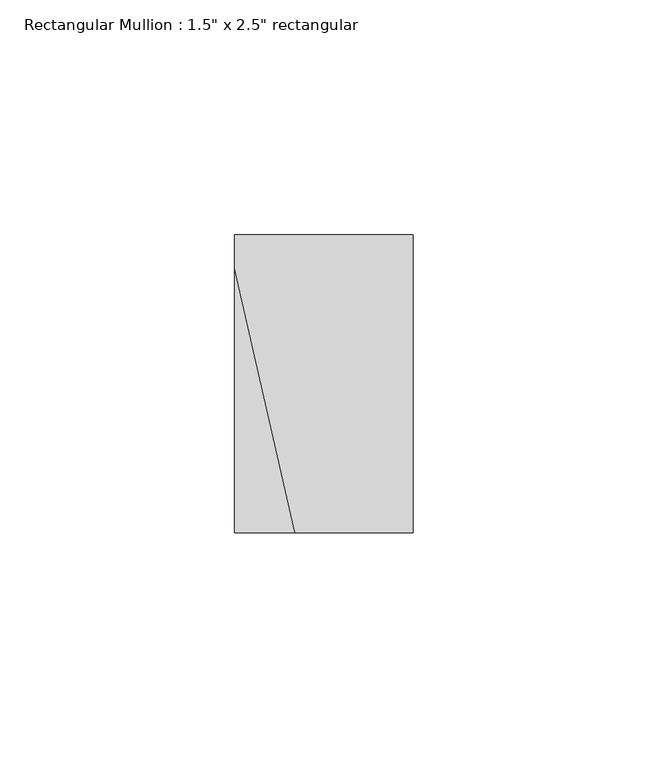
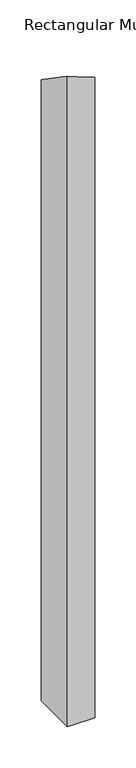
"""IFC4 building model written with IfcOpenShell, lengths in millimetres: member geometry."""

from ifc_helpers import new_model, si_unit, origin, place, context, project, spatial, faceted_brep, source, transform, mapped, element, save


def member_5a82a5ce(model_context):
    return source(origin(), model_context, "Body", "Brep", [
        faceted_brep([(19.05, 31.75, -973.5508819), (19.05, -31.75, -973.5508819), (-19.05, -31.75, -973.5508819), (-19.05, 31.75, -973.5508819), (-19.05, 31.75, -54.949885), (19.05, 31.75, -69.7699096), (-19.05, -31.75, -11.4120473), (-19.05, 24.6105029, -50.031074), (19.05, -31.75, -26.0210998), (-6.1722582, -31.75, -16.2102209)], [[[0, 1, 2, 3]], [[4, 5, 0, 3]], [[6, 7, 4, 3, 2]], [[8, 9, 6, 2, 1]], [[5, 8, 1, 0]], [[5, 4, 7, 9, 8]], [[7, 6, 9]]]),
    ])


if __name__ == "__main__":
    model = new_model("IFC4")
    model_context = context("Model", 3, world=origin())
    ifc_project = project(units=[si_unit("LENGTHUNIT", "METRE", prefix="MILLI")], contexts=[model_context])
    site = spatial("IfcSite", under=ifc_project)
    building = spatial("IfcBuilding", under=site)
    placement = place(None, origin())
    member_shape = member_5a82a5ce(model_context)
    element("IfcMember", 1, ObjectType="Rectangular Mullion : 1.5\" x 2.5\" rectangular", at=placement, inside=building, context=model_context, shape_type="MappedRepresentation", body=[
        mapped(member_shape, transform((0.0, 0.0, 0.0), x_axis=(1.0, 0.0, 0.0), y_axis=(0.0, 1.0, 0.0), z_axis=(0.0, 0.0, 1.0))),
    ])
    save(model, "model.ifc")
